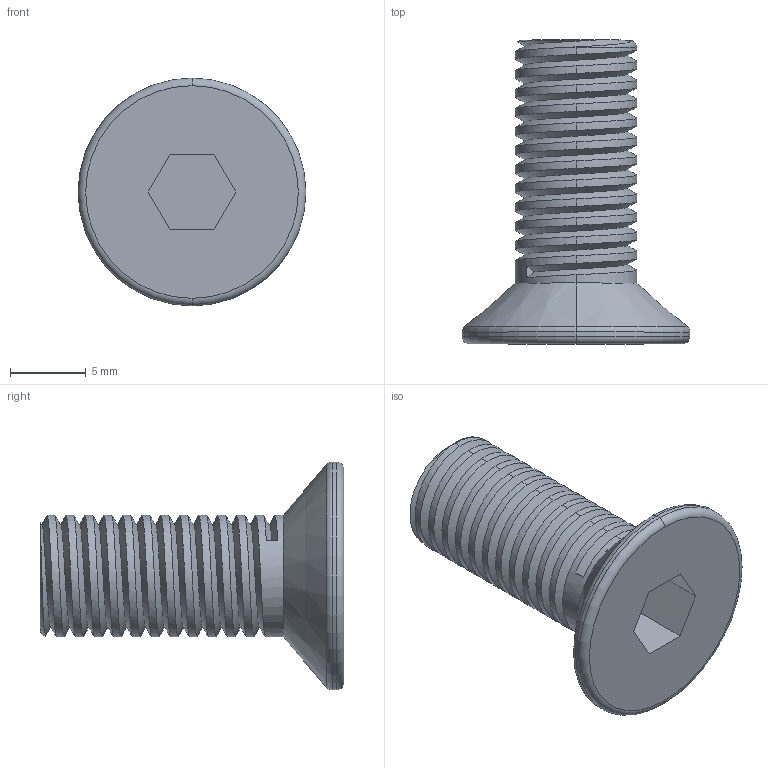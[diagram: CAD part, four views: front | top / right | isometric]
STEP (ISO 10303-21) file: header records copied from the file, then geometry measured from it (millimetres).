
FILE_DESCRIPTION (( 'STEP AP203' ), '1' );
FILE_NAME ('146-CE-FLB-8.STEP', '2015-07-09T09:04:02', ( '' ), ( '' ), 'SwSTEP 2.0', 'SolidWorks 2013', '' );
FILE_SCHEMA (( 'CONFIG_CONTROL_DESIGN' ));
Length unit declared in the file: millimetre
Products named in the file (1): 146-CE-FLB-8
Bounding box: 15 x 20 x 15 mm (x, y, z)
Volume: 1141.1 mm3; surface area: 1085.6 mm2
Topology: 1 solids, 1 shells, 48 faces, 126 edges, 81 vertices
Faces by surface type: cylinder 27, plane 10, torus 7, cone 2, bspline 2
Entity records: 2959 total; most frequent: CARTESIAN_POINT 1850, ORIENTED_EDGE 252, DIRECTION 184, EDGE_CURVE 126, VERTEX_POINT 81, AXIS2_PLACEMENT_3D 67, VECTOR 50, LINE 50
